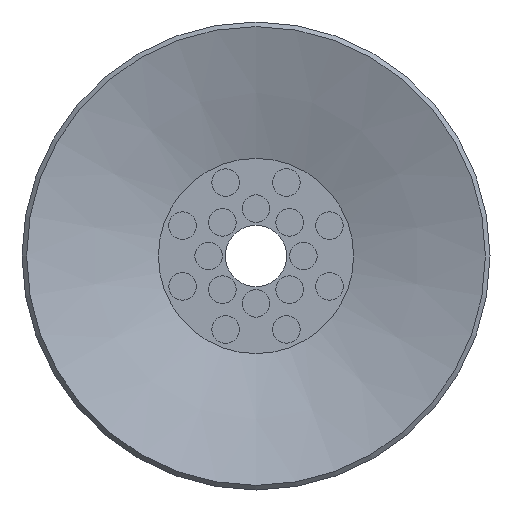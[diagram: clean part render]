
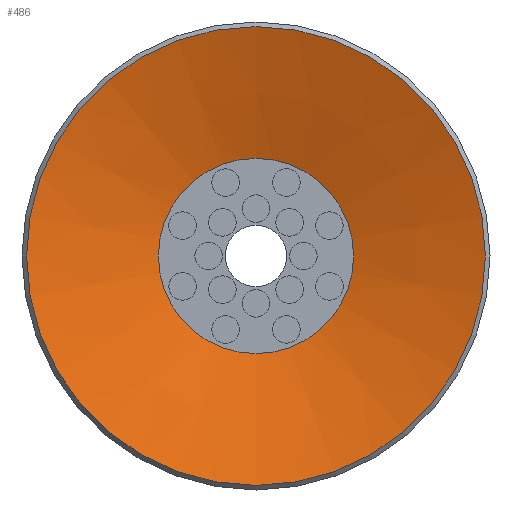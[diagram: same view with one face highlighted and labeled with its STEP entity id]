
A CAD part, front view. The second image highlights one B-rep face of the part: STEP entity #486.
In plain terms, the highlighted conical face has half-angle 72 degrees and reference radius 7.5 mm.
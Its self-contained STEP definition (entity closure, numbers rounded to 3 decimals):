
#486=ADVANCED_FACE('',(#757,#758),#759,.F.);
#757=FACE_BOUND('',#1081,.T.);
#758=FACE_OUTER_BOUND('',#1082,.T.);
#759=CONICAL_SURFACE('',#1083,7.5,1.257);
#1081=EDGE_LOOP('',(#1732));
#1082=EDGE_LOOP('',(#1733));
#1083=AXIS2_PLACEMENT_3D('',#1734,#1735,#1736);
#1732=ORIENTED_EDGE('',*,*,#2026,.T.);
#1733=ORIENTED_EDGE('',*,*,#2043,.F.);
#1734=CARTESIAN_POINT('',(0.0,0.,0.));
#1735=DIRECTION('',(0.0,0.,-1.0));
#1736=DIRECTION('',(0.0,1.0,0.));
#2026=EDGE_CURVE('',#2306,#2306,#2307,.T.);
#2043=EDGE_CURVE('',#2340,#2340,#2341,.T.);
#2306=VERTEX_POINT('',#2928);
#2307=CIRCLE('',#2929,3.191);
#2340=VERTEX_POINT('',#2962);
#2341=CIRCLE('',#2963,7.5);
#2928=CARTESIAN_POINT('',(0.0,-3.191,1.4));
#2929=AXIS2_PLACEMENT_3D('',#3236,#3237,#3238);
#2962=CARTESIAN_POINT('',(0.0,-7.5,0.));
#2963=AXIS2_PLACEMENT_3D('',#3287,#3288,#3289);
#3236=CARTESIAN_POINT('',(0.0,0.,1.4));
#3237=DIRECTION('',(0.0,0.,1.0));
#3238=DIRECTION('',(0.0,-1.0,0.));
#3287=CARTESIAN_POINT('',(0.0,0.,0.));
#3288=DIRECTION('',(0.0,0.,1.0));
#3289=DIRECTION('',(0.0,-1.0,0.));
